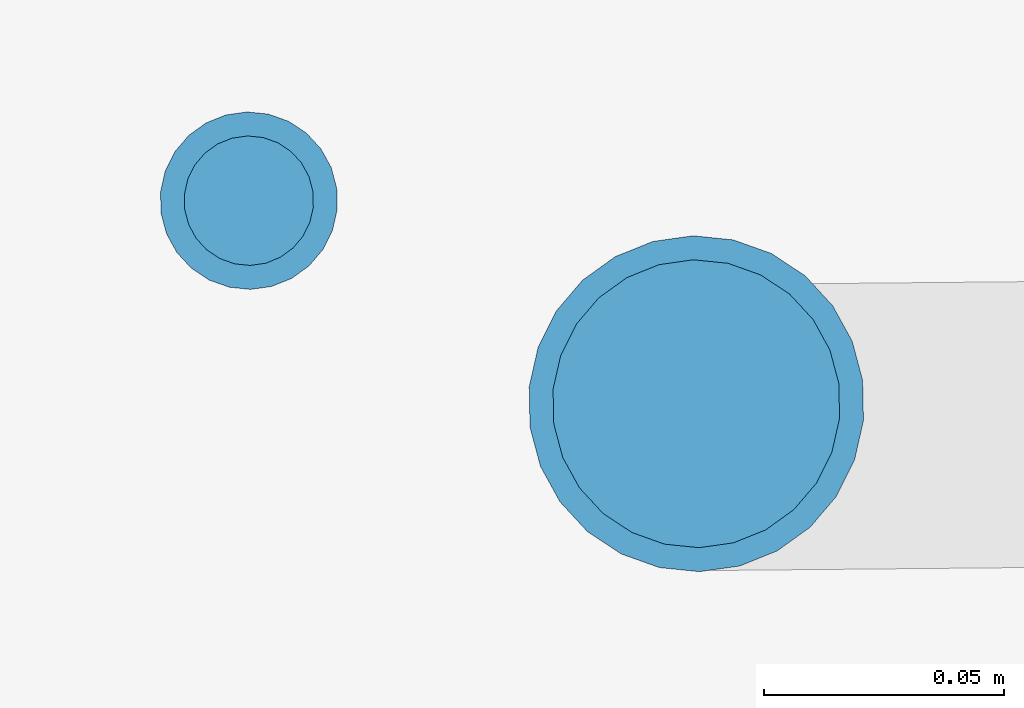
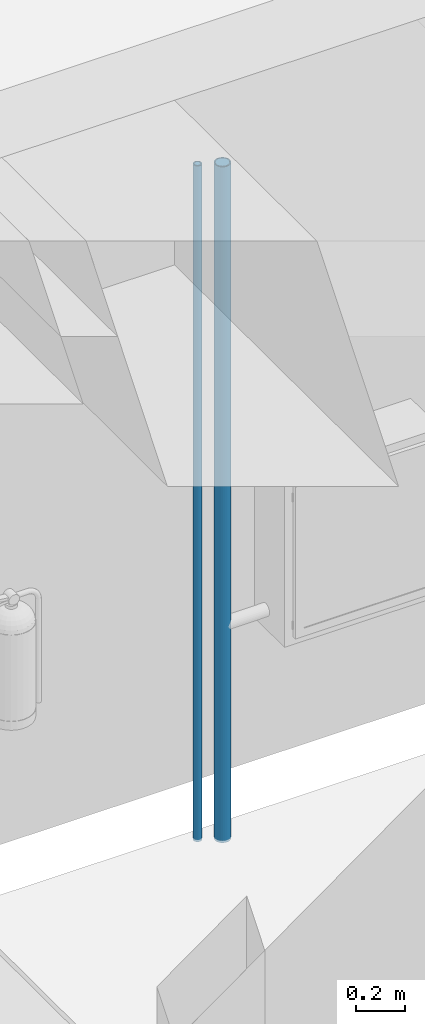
# One storey, part 53 of 158: 4 building element parts, 2 elements without a shape of their own.
"""IFC2X3 building model written with IfcOpenShell, lengths in metres."""

import ifcopenshell
import ifcopenshell.guid

model = None  # the IFC model being written
_history = None  # IfcOwnerHistory: only IFC2X3 demands one
_inside = {}  # id of a spatial element -> (the spatial element, [elements in it])
_under = {}  # id of a project, library or spatial element -> (it, [spatial elements below it])
_declared = {}  # id of a project -> (the project, [libraries it declares])
_typed = {}  # id of a type object -> (the type object, [elements of that type])
_made_of = {}  # id of a material, layer set ... -> (it, [elements and type objects made of it])


def new_model(schema):
    """Start an empty IFC model of exactly this schema.

    Asked for "IFC4X3", IfcOpenShell would pick the latest addendum, in which some entities
    have other attributes; the version numbers below select the first issue.
    IFC2X3 requires an IfcOwnerHistory on every rooted entity: one is made here for all.
    """
    global model, _history
    if schema == "IFC4X3":
        model = ifcopenshell.file(schema_version=(4, 3, 0, 0))
    else:
        model = ifcopenshell.file(schema=schema)
    _inside.clear()
    _under.clear()
    _declared.clear()
    _typed.clear()
    _made_of.clear()
    _history = None
    if model.schema == "IFC2X3":
        org = make("IfcOrganization", Name="unknown")
        user = make(
            "IfcPersonAndOrganization",
            ThePerson=make("IfcPerson", FamilyName="unknown"),
            TheOrganization=org,
        )
        app = make(
            "IfcApplication",
            ApplicationDeveloper=org,
            Version="unknown",
            ApplicationFullName="unknown",
            ApplicationIdentifier="unknown",
        )
        _history = make(
            "IfcOwnerHistory",
            OwningUser=user,
            OwningApplication=app,
            ChangeAction="ADDED",
            CreationDate=0,
        )
    return model


def make(cls, **values):
    """One entity of the class cls with the attributes given. An attribute that is None is left unset."""
    return model.create_entity(
        cls, **{name: value for name, value in values.items() if value is not None}
    )


def entity(cls, *values):
    """Any entity or typed value of the class cls, its attributes in the order of the schema. None: left unset."""
    e = model.create_entity(cls)
    for i, value in enumerate(values):
        if value is not None:
            e[i] = value
    return e


def rooted(cls, **values):
    """An entity with a GlobalId (a new one), such as an element, a storey or a relation."""
    return make(cls, GlobalId=ifcopenshell.guid.new(), OwnerHistory=_history, **values)


def si_unit(unit_type, name, prefix=None):
    """IfcSIUnit, for example si_unit("LENGTHUNIT", "METRE", prefix="MILLI")."""
    return make("IfcSIUnit", UnitType=unit_type, Prefix=prefix, Name=name)


def converted_unit(unit_type, name, factor, base, dimensions=None, offset=None):
    """IfcConversionBasedUnit, such as the inch: factor (a typed value) times the base unit."""
    return make(
        "IfcConversionBasedUnit"
        if offset is None
        else "IfcConversionBasedUnitWithOffset",
        ConversionOffset=offset,
        Dimensions=None
        if dimensions is None
        else entity("IfcDimensionalExponents", *dimensions),
        UnitType=unit_type,
        Name=name,
        ConversionFactor=make(
            "IfcMeasureWithUnit", ValueComponent=factor, UnitComponent=base
        ),
    )


def derived_unit(unit_type, elements):
    """IfcDerivedUnit: a product of units, each with its exponent."""
    return make(
        "IfcDerivedUnit",
        Elements=[
            make("IfcDerivedUnitElement", Unit=unit, Exponent=power)
            for unit, power in elements
        ],
        UnitType=unit_type,
    )


def money_unit(currency):
    """IfcMonetaryUnit."""
    return make("IfcMonetaryUnit", Currency=currency)


def assignment(units):
    """IfcUnitAssignment: the units of a project."""
    return None if units is None else make("IfcUnitAssignment", Units=units)


def point(xyz):
    """IfcCartesianPoint."""
    return None if xyz is None else make("IfcCartesianPoint", Coordinates=xyz)


def direction(xyz):
    """IfcDirection."""
    return None if xyz is None else make("IfcDirection", DirectionRatios=xyz)


def frame(location, z_axis=None, x_axis=None):
    """IfcAxis2Placement3D, a coordinate frame: its origin and axes. An axis left out is left unset."""
    return make(
        "IfcAxis2Placement3D",
        Location=point(location),
        Axis=direction(z_axis),
        RefDirection=direction(x_axis),
    )


def frame_2d(location, x_axis=None):
    """IfcAxis2Placement2D, a coordinate frame in the plane: its origin and x axis."""
    return make(
        "IfcAxis2Placement2D", Location=point(location), RefDirection=direction(x_axis)
    )


def origin_with_axes():
    """The frame at (0, 0, 0) with the z axis (0, 0, 1) and the x axis (1, 0, 0) written out."""
    return frame((0.0, 0.0, 0.0), z_axis=(0.0, 0.0, 1.0), x_axis=(1.0, 0.0, 0.0))


def origin_2d_with_axis():
    """The frame at (0, 0) in the plane with the x axis (1, 0) written out."""
    return frame_2d((0.0, 0.0), x_axis=(1.0, 0.0))


def place(relative_to, where):
    """IfcLocalPlacement: puts the frame where relative to a parent placement (None: the world)."""
    return make(
        "IfcLocalPlacement", PlacementRelTo=relative_to, RelativePlacement=where
    )


def context(
    kind, dimensions, precision=None, world=None, true_north=None, identifier=None
):
    """IfcGeometricRepresentationContext, for example the 3D "Model" context."""
    return make(
        "IfcGeometricRepresentationContext",
        ContextIdentifier=identifier,
        ContextType=kind,
        CoordinateSpaceDimension=dimensions,
        Precision=precision,
        WorldCoordinateSystem=world,
        TrueNorth=true_north,
    )


def subcontext(parent, identifier, kind, view, scale=None):
    """IfcGeometricRepresentationSubContext, for example "Body" below "Model"."""
    return make(
        "IfcGeometricRepresentationSubContext",
        ContextIdentifier=identifier,
        ContextType=kind,
        ParentContext=parent,
        TargetScale=scale,
        TargetView=view,
    )


def project(units=None, contexts=None):
    """IfcProject with its units and contexts."""
    return rooted(
        "IfcProject",
        Name="project",
        RepresentationContexts=contexts,
        UnitsInContext=assignment(units),
    )


def spatial(cls, under=None, at=None, **own):
    """A site, building, storey or space (cls), placed at a placement, below another one or the project."""
    s = rooted(cls, ObjectPlacement=at, **own)
    if under is not None:
        _under.setdefault(under.id(), (under, []))[1].append(s)
    return s


def profile(cls, at=None, kind="AREA", **sizes):
    """A parametric profile (cls). Its sizes go by their IFC names, for example OverallWidth=200.0."""
    return make(cls, ProfileType=kind, Position=at, **sizes)


def circle(**sizes):
    """IfcCircleProfileDef."""
    return profile("IfcCircleProfileDef", **sizes)


def hollow_circle(**sizes):
    """IfcCircleHollowProfileDef."""
    return profile("IfcCircleHollowProfileDef", **sizes)


def extrude(swept, where, along, depth):
    """IfcExtrudedAreaSolid: the profile swept, set in the frame where, extruded along a direction by depth."""
    return make(
        "IfcExtrudedAreaSolid",
        SweptArea=swept,
        Position=where,
        ExtrudedDirection=direction(along),
        Depth=depth,
    )


def shape(context_of_items, identifier, shape_type, items):
    """IfcShapeRepresentation: the items that make up one representation, for example the "Body"."""
    return make(
        "IfcShapeRepresentation",
        ContextOfItems=context_of_items,
        RepresentationIdentifier=identifier,
        RepresentationType=shape_type,
        Items=items,
    )


def material(Name=None, Category=None):
    """IfcMaterial."""
    return make("IfcMaterial", Name=Name, Category=Category)


def made_of(thing, what):
    """Note that an element or type object is made of a material, layer set ...; save() writes the relation."""
    if what is not None:
        _made_of.setdefault(what.id(), (what, []))[1].append(thing)
    return thing


def type_object(cls, material=None, **own):
    """A type object (cls), such as IfcWallType, which elements share."""
    return made_of(rooted(cls, **own), material)


def element(
    cls,
    number,
    at=None,
    inside=None,
    cuts=None,
    type_object=None,
    material=None,
    context=None,
    identifier="Body",
    shape_type=None,
    held_by="IfcProductDefinitionShape",
    body=None,
    shapes=None,
    **own,
):
    """One element of the class cls, such as IfcWall. Its Tag is "e" and its number.

    at: its placement. inside: the storey or other place that contains it. cuts: it is an
    opening in that element (IfcRelVoidsElement). A single representation is given by context,
    identifier, shape_type and body (its items); several are given by shapes. held_by: the class
    of the entity that holds the representations. save() writes the other relations.
    """
    e = rooted(cls, Tag="e%d" % number, ObjectPlacement=at, **own)
    if body is not None:
        shapes = [shape(context, identifier, shape_type, body)]
    if shapes is not None:
        e.Representation = make(held_by, Representations=shapes)
    if inside is not None:
        _inside.setdefault(inside.id(), (inside, []))[1].append(e)
    if cuts is not None:
        rooted(
            "IfcRelVoidsElement", RelatingBuildingElement=cuts, RelatedOpeningElement=e
        )
    if type_object is not None:
        _typed.setdefault(type_object.id(), (type_object, []))[1].append(e)
    return made_of(e, material)


def aggregate(whole, parts):
    """IfcRelAggregates: a whole, such as a stair, and the parts it consists of."""
    return rooted("IfcRelAggregates", RelatingObject=whole, RelatedObjects=parts)


def save(model, path):
    """Write the relations noted so far, then the file.

    IfcRelAggregates (storeys below a building ...), IfcRelContainedInSpatialStructure (elements
    in a storey), IfcRelDefinesByType, IfcRelAssociatesMaterial and IfcRelDeclares: one each for
    every whole, place, type object, material and project.
    """
    for whole, parts in _under.values():
        aggregate(whole, parts)
    for where, things in _inside.values():
        rooted(
            "IfcRelContainedInSpatialStructure",
            RelatedElements=things,
            RelatingStructure=where,
        )
    for kind, things in _typed.values():
        rooted("IfcRelDefinesByType", RelatedObjects=things, RelatingType=kind)
    for what, things in _made_of.values():
        rooted("IfcRelAssociatesMaterial", RelatedObjects=things, RelatingMaterial=what)
    for by, libraries in _declared.values():
        rooted("IfcRelDeclares", RelatingContext=by, RelatedDefinitions=libraries)
    model.write(path)


model = new_model("IFC2X3")

# Units and contexts
model_context = context("Model", 3, precision=1e-05, world=origin_with_axes(), true_north=direction((0.0, 1.0)))
body_context = subcontext(model_context, "Body", "Model", "MODEL_VIEW")
ifc_project = project(units=[si_unit("LENGTHUNIT", "METRE"), si_unit("AREAUNIT", "SQUARE_METRE"), si_unit("VOLUMEUNIT", "CUBIC_METRE"), converted_unit("PLANEANGLEUNIT", "DEGREE", entity("IfcPlaneAngleMeasure", 0.0174532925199), si_unit("PLANEANGLEUNIT", "RADIAN"), dimensions=[0, 0, 0, 0, 0, 0, 0]), money_unit("EUR"), converted_unit("TIMEUNIT", "Year", entity("IfcTimeMeasure", 31556926.0), si_unit("TIMEUNIT", "SECOND"), dimensions=[0, 0, 1, 0, 0, 0, 0]), si_unit("MASSUNIT", "GRAM", prefix="KILO"), si_unit("THERMODYNAMICTEMPERATUREUNIT", "DEGREE_CELSIUS"), si_unit("LUMINOUSINTENSITYUNIT", "LUMEN"), si_unit("ENERGYUNIT", "JOULE", prefix="MEGA"), derived_unit("THERMALCONDUCTANCEUNIT", [(si_unit("POWERUNIT", "WATT"), 1), (si_unit("LENGTHUNIT", "METRE"), -1), (si_unit("THERMODYNAMICTEMPERATUREUNIT", "KELVIN"), -1)]), derived_unit("SPECIFICHEATCAPACITYUNIT", [(si_unit("ENERGYUNIT", "JOULE"), 1), (si_unit("MASSUNIT", "GRAM", prefix="KILO"), -1), (si_unit("THERMODYNAMICTEMPERATUREUNIT", "KELVIN"), -1)]), derived_unit("MASSDENSITYUNIT", [(si_unit("MASSUNIT", "GRAM", prefix="KILO"), 1), (si_unit("VOLUMEUNIT", "CUBIC_METRE"), -1)])], contexts=[model_context])

# Site, building, storey
site_placement = place(None, origin_with_axes())
site = spatial("IfcSite", under=ifc_project, at=site_placement, Name="Gelände", CompositionType="ELEMENT")
building_placement = place(site_placement, origin_with_axes())
building = spatial("IfcBuilding", under=site, at=building_placement, Name="Gebäude", CompositionType="ELEMENT")
storey_placement = place(building_placement, origin_with_axes())
storey = spatial("IfcBuildingStorey", under=building, at=storey_placement, Name="ERDGESCHOSS", CompositionType="ELEMENT", Elevation=0.0)

# Column, building element parts
column_type_1 = type_object("IfcColumnType", Name="56_Metall, Stahl verzinkt D70", PredefinedType="COLUMN")
column_1_placement = place(storey_placement, frame((4.75263517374, 19.1906946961, -0.081788), z_axis=(0.0, 0.0, 1.0), x_axis=(1.0, 0.0, 0.0)))
column_1 = element("IfcColumn", 1, at=column_1_placement, inside=storey, type_object=column_type_1, Name="Stütze-008", ObjectType="COLUMN")
ifc_material = material(Name="56_Metall, Stahl verzinkt")
building_element_part_1_placement = place(column_1_placement, origin_with_axes())
building_element_part_1 = element("IfcBuildingElementPart", 2, at=building_element_part_1_placement, material=ifc_material, Name="56_Metall, Stahl verzinkt", context=body_context, shape_type="SweptSolid", body=[
    extrude(hollow_circle(Radius=0.035, WallThickness=0.005, at=origin_2d_with_axis()), frame((0.0, 0.0, 0.0), z_axis=(0.0, 0.0, 1.0), x_axis=(0.0198104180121, -0.999803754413, 0.0)), (0.0, 0.0, 1.0), 3.366276),
])
building_element_part_2_placement = place(column_1_placement, origin_with_axes())
building_element_part_2 = element("IfcBuildingElementPart", 3, at=building_element_part_2_placement, material=ifc_material, Name="56_Metall, Stahl verzinkt", context=body_context, shape_type="SweptSolid", body=[
    extrude(circle(Radius=0.03, at=origin_2d_with_axis()), frame((0.0, 0.0, 0.0), z_axis=(0.0, 0.0, 1.0), x_axis=(0.0198104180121, -0.999803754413, 0.0)), (0.0, 0.0, 1.0), 3.366276),
])
aggregate(column_1, [building_element_part_1, building_element_part_2])

column_type_2 = type_object("IfcColumnType", Name="56_Metall, Stahl verzinkt D37", PredefinedType="COLUMN")
column_2_placement = place(storey_placement, frame((4.65939755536, 19.2330077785, -0.081788), z_axis=(0.0, 0.0, 1.0), x_axis=(1.0, 0.0, 0.0)))
column_2 = element("IfcColumn", 4, at=column_2_placement, inside=storey, type_object=column_type_2, Name="Stütze-008", ObjectType="COLUMN")
building_element_part_3_placement = place(column_2_placement, origin_with_axes())
building_element_part_3 = element("IfcBuildingElementPart", 5, at=building_element_part_3_placement, material=ifc_material, Name="56_Metall, Stahl verzinkt", context=body_context, shape_type="SweptSolid", body=[
    extrude(hollow_circle(Radius=0.0184922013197, WallThickness=0.005, at=origin_2d_with_axis()), frame((0.0, 0.0, 0.0), z_axis=(0.0, 0.0, 1.0), x_axis=(0.0198104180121, -0.999803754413, 0.0)), (0.0, 0.0, 1.0), 3.366276),
])
building_element_part_4_placement = place(column_2_placement, origin_with_axes())
building_element_part_4 = element("IfcBuildingElementPart", 6, at=building_element_part_4_placement, material=ifc_material, Name="56_Metall, Stahl verzinkt", context=body_context, shape_type="SweptSolid", body=[
    extrude(circle(Radius=0.0134922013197, at=origin_2d_with_axis()), frame((0.0, 0.0, 0.0), z_axis=(0.0, 0.0, 1.0), x_axis=(0.0198104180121, -0.999803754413, 0.0)), (0.0, 0.0, 1.0), 3.366276),
])
aggregate(column_2, [building_element_part_3, building_element_part_4])

save(model, "model.ifc")
